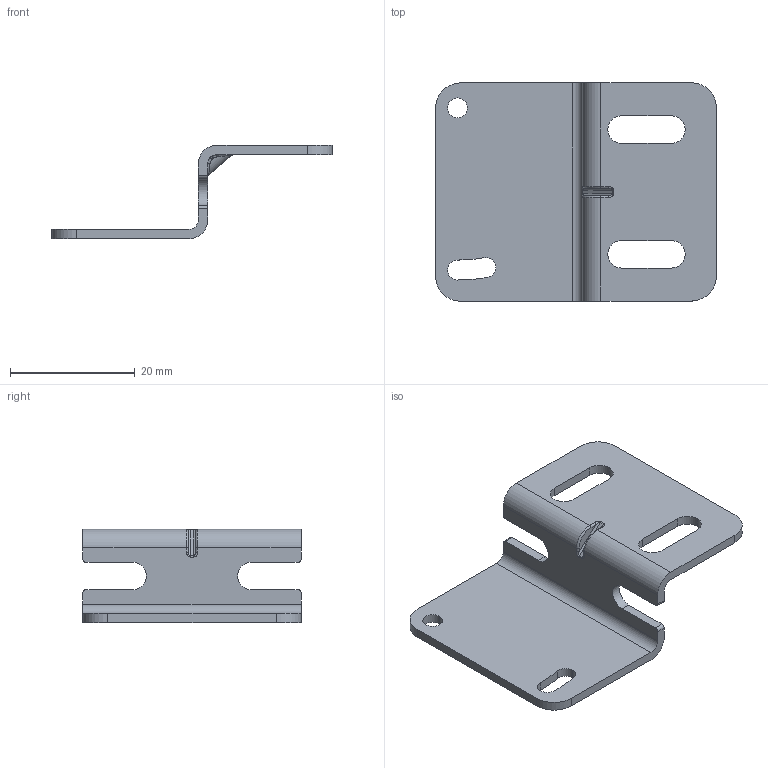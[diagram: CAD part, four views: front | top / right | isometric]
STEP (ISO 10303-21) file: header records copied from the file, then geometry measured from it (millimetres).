
FILE_DESCRIPTION (( 'STEP AP214' ), '1' );
FILE_NAME ('BYD BRACKET B.STEP', '2019-07-01T07:14:46', ( '10118109' ), ( '' ), 'SwSTEP 2.0', 'SolidWorks 2018', '' );
FILE_SCHEMA (( 'AUTOMOTIVE_DESIGN' ));
Length unit declared in the file: inch
Products named in the file (1): BYD BRACKET B
Bounding box: 45 x 35 x 15 mm (x, y, z)
Volume: 2633 mm3; surface area: 3961.7 mm2
Topology: 1 solids, 1 shells, 81 faces, 217 edges, 138 vertices
Faces by surface type: cylinder 41, plane 24, bspline 14, torus 2
Entity records: 2811 total; most frequent: CARTESIAN_POINT 787, ORIENTED_EDGE 434, DIRECTION 407, EDGE_CURVE 217, AXIS2_PLACEMENT_3D 150, VERTEX_POINT 138, LINE 107, VECTOR 107
